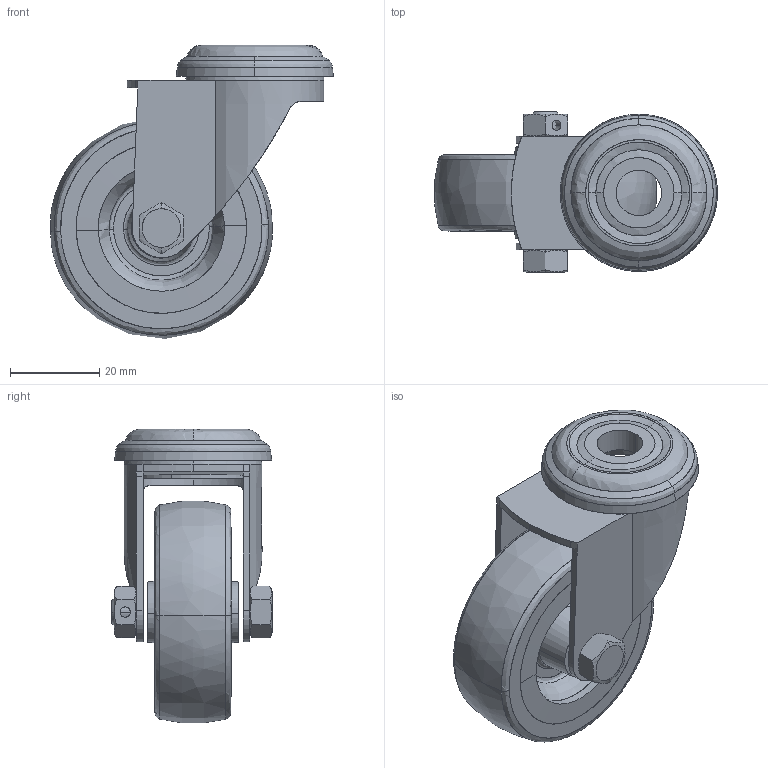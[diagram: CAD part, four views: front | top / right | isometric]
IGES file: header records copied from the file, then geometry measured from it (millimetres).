
Start section: SolidWorks IGES file using analytic representation for surfaces
Global section: file name: S:\Tyokansio\ML\3DWEBMALLIT\HP\IGES\100078_IGES.IGS; native system: SolidWorks 2011; preprocessor: SolidWorks 2011; author: markola; date: 120611.135154; units: millimetre
Bounding box: 63.53 x 36 x 65.95 mm (x, y, z)
Surface area: 18449.1 mm2 (no closed solid volume)
Topology: 0 solids, 0 shells, 171 faces, 2834 edges, 2804 vertices
Faces by surface type: bspline 97, revolution 74
